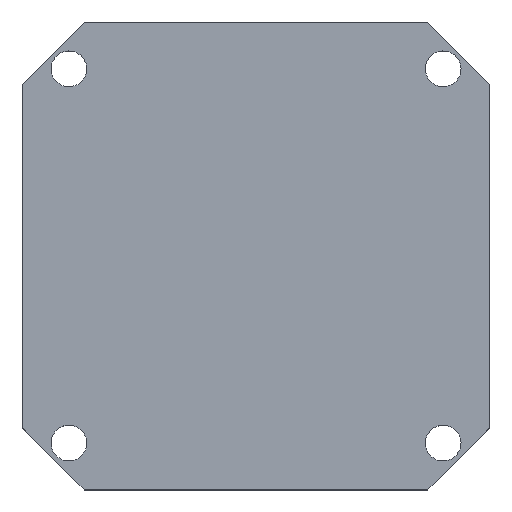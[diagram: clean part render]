
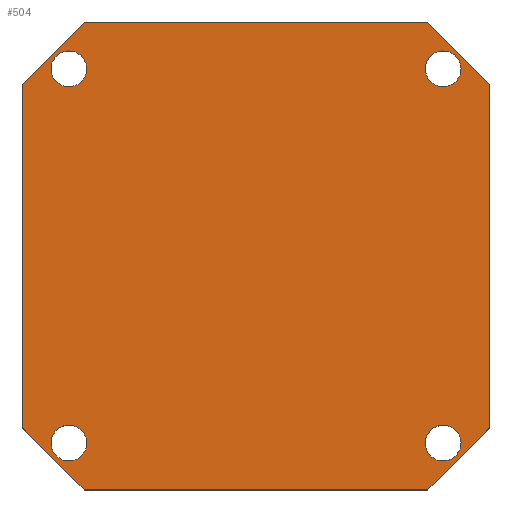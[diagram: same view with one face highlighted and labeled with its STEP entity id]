
A CAD part, top view. The second image highlights one B-rep face of the part: STEP entity #504.
In plain terms, the highlighted planar face has unit normal (0, 0, 1).
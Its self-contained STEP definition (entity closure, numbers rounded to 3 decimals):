
#63=CARTESIAN_POINT('Vertex',(-22.67,21.874,5.)) ;
#77=CARTESIAN_POINT('Vertex',(-19.16,19.956,5.)) ;
#80=CARTESIAN_POINT('Axis2P3D Location',(-20.915,20.915,5.)) ;
#97=CARTESIAN_POINT('Axis2P3D Location',(-20.915,20.915,5.)) ;
#120=CARTESIAN_POINT('Vertex',(-19.211,26.155,5.)) ;
#134=CARTESIAN_POINT('Vertex',(-26.15,19.216,5.)) ;
#137=CARTESIAN_POINT('Line Origine',(-22.681,22.685,5.)) ;
#165=CARTESIAN_POINT('Vertex',(-26.15,-19.226,5.)) ;
#168=CARTESIAN_POINT('Line Origine',(-26.15,-0.005,5.)) ;
#196=CARTESIAN_POINT('Vertex',(-19.221,-26.155,5.)) ;
#199=CARTESIAN_POINT('Line Origine',(-22.686,-22.69,5.)) ;
#227=CARTESIAN_POINT('Vertex',(19.221,-26.155,5.)) ;
#230=CARTESIAN_POINT('Line Origine',(0.,-26.155,5.)) ;
#258=CARTESIAN_POINT('Vertex',(26.15,-19.226,5.)) ;
#261=CARTESIAN_POINT('Line Origine',(22.686,-22.69,5.)) ;
#289=CARTESIAN_POINT('Vertex',(26.15,19.216,5.)) ;
#292=CARTESIAN_POINT('Line Origine',(26.15,-0.005,5.)) ;
#320=CARTESIAN_POINT('Vertex',(19.211,26.155,5.)) ;
#323=CARTESIAN_POINT('Line Origine',(22.681,22.685,5.)) ;
#345=CARTESIAN_POINT('Line Origine',(0.,26.155,5.)) ;
#431=CARTESIAN_POINT('Axis2P3D Location',(0.,0.,5.)) ;
#450=CARTESIAN_POINT('Axis2P3D Location',(-20.915,-20.921,5.)) ;
#454=CARTESIAN_POINT('Vertex',(-19.16,-21.88,5.)) ;
#456=CARTESIAN_POINT('Vertex',(-22.67,-19.962,5.)) ;
#459=CARTESIAN_POINT('Axis2P3D Location',(-20.915,-20.921,5.)) ;
#468=CARTESIAN_POINT('Axis2P3D Location',(20.921,20.915,5.)) ;
#472=CARTESIAN_POINT('Vertex',(22.676,19.956,5.)) ;
#474=CARTESIAN_POINT('Vertex',(19.166,21.874,5.)) ;
#477=CARTESIAN_POINT('Axis2P3D Location',(20.921,20.915,5.)) ;
#486=CARTESIAN_POINT('Axis2P3D Location',(20.921,-20.921,5.)) ;
#490=CARTESIAN_POINT('Vertex',(22.676,-21.88,5.)) ;
#492=CARTESIAN_POINT('Vertex',(19.166,-19.962,5.)) ;
#495=CARTESIAN_POINT('Axis2P3D Location',(20.921,-20.921,5.)) ;
#81=DIRECTION('Axis2P3D Direction',(0.,-0.,-1.)) ;
#98=DIRECTION('Axis2P3D Direction',(0.,-0.,-1.)) ;
#138=DIRECTION('Vector Direction',(0.707,0.707,0.)) ;
#169=DIRECTION('Vector Direction',(0.,1.,0.)) ;
#200=DIRECTION('Vector Direction',(-0.707,0.707,0.)) ;
#231=DIRECTION('Vector Direction',(-1.,0.,0.)) ;
#262=DIRECTION('Vector Direction',(-0.707,-0.707,0.)) ;
#293=DIRECTION('Vector Direction',(0.,-1.,0.)) ;
#324=DIRECTION('Vector Direction',(0.707,-0.707,0.)) ;
#346=DIRECTION('Vector Direction',(1.,0.,0.)) ;
#432=DIRECTION('Axis2P3D Direction',(0.,0.,1.)) ;
#433=DIRECTION('Axis2P3D XDirection',(1.,0.,0.)) ;
#451=DIRECTION('Axis2P3D Direction',(0.,0.,1.)) ;
#460=DIRECTION('Axis2P3D Direction',(0.,0.,1.)) ;
#469=DIRECTION('Axis2P3D Direction',(0.,0.,1.)) ;
#478=DIRECTION('Axis2P3D Direction',(0.,0.,1.)) ;
#487=DIRECTION('Axis2P3D Direction',(0.,0.,1.)) ;
#496=DIRECTION('Axis2P3D Direction',(0.,0.,1.)) ;
#82=AXIS2_PLACEMENT_3D('Circle Axis2P3D',#80,#81,$) ;
#99=AXIS2_PLACEMENT_3D('Circle Axis2P3D',#97,#98,$) ;
#434=AXIS2_PLACEMENT_3D('Plane Axis2P3D',#431,#432,#433) ;
#452=AXIS2_PLACEMENT_3D('Circle Axis2P3D',#450,#451,$) ;
#461=AXIS2_PLACEMENT_3D('Circle Axis2P3D',#459,#460,$) ;
#470=AXIS2_PLACEMENT_3D('Circle Axis2P3D',#468,#469,$) ;
#479=AXIS2_PLACEMENT_3D('Circle Axis2P3D',#477,#478,$) ;
#488=AXIS2_PLACEMENT_3D('Circle Axis2P3D',#486,#487,$) ;
#497=AXIS2_PLACEMENT_3D('Circle Axis2P3D',#495,#496,$) ;
#437=ORIENTED_EDGE('',*,*,#141,.T.) ;
#438=ORIENTED_EDGE('',*,*,#172,.T.) ;
#439=ORIENTED_EDGE('',*,*,#203,.T.) ;
#440=ORIENTED_EDGE('',*,*,#234,.T.) ;
#441=ORIENTED_EDGE('',*,*,#265,.T.) ;
#442=ORIENTED_EDGE('',*,*,#296,.T.) ;
#443=ORIENTED_EDGE('',*,*,#327,.T.) ;
#444=ORIENTED_EDGE('',*,*,#349,.T.) ;
#447=ORIENTED_EDGE('',*,*,#101,.F.) ;
#448=ORIENTED_EDGE('',*,*,#84,.F.) ;
#465=ORIENTED_EDGE('',*,*,#458,.F.) ;
#466=ORIENTED_EDGE('',*,*,#463,.F.) ;
#483=ORIENTED_EDGE('',*,*,#476,.F.) ;
#484=ORIENTED_EDGE('',*,*,#481,.F.) ;
#501=ORIENTED_EDGE('',*,*,#494,.F.) ;
#502=ORIENTED_EDGE('',*,*,#499,.F.) ;
#449=FACE_BOUND('',#446,.T.) ;
#467=FACE_BOUND('',#464,.T.) ;
#485=FACE_BOUND('',#482,.T.) ;
#503=FACE_BOUND('',#500,.T.) ;
#139=VECTOR('Line Direction',#138,1.) ;
#170=VECTOR('Line Direction',#169,1.) ;
#201=VECTOR('Line Direction',#200,1.) ;
#232=VECTOR('Line Direction',#231,1.) ;
#263=VECTOR('Line Direction',#262,1.) ;
#294=VECTOR('Line Direction',#293,1.) ;
#325=VECTOR('Line Direction',#324,1.) ;
#347=VECTOR('Line Direction',#346,1.) ;
#504=ADVANCED_FACE('Corps principal',(#445,#449,#467,#485,#503),#435,.T.) ;
#83=CIRCLE('generated circle',#82,2.) ;
#100=CIRCLE('generated circle',#99,2.) ;
#453=CIRCLE('generated circle',#452,2.) ;
#462=CIRCLE('generated circle',#461,2.) ;
#471=CIRCLE('generated circle',#470,2.) ;
#480=CIRCLE('generated circle',#479,2.) ;
#489=CIRCLE('generated circle',#488,2.) ;
#498=CIRCLE('generated circle',#497,2.) ;
#84=EDGE_CURVE('',#78,#64,#83,.F.) ;
#101=EDGE_CURVE('',#64,#78,#100,.F.) ;
#141=EDGE_CURVE('',#121,#135,#140,.F.) ;
#172=EDGE_CURVE('',#135,#166,#171,.F.) ;
#203=EDGE_CURVE('',#166,#197,#202,.F.) ;
#234=EDGE_CURVE('',#197,#228,#233,.F.) ;
#265=EDGE_CURVE('',#228,#259,#264,.F.) ;
#296=EDGE_CURVE('',#259,#290,#295,.F.) ;
#327=EDGE_CURVE('',#290,#321,#326,.F.) ;
#349=EDGE_CURVE('',#321,#121,#348,.F.) ;
#458=EDGE_CURVE('',#455,#457,#453,.T.) ;
#463=EDGE_CURVE('',#457,#455,#462,.T.) ;
#476=EDGE_CURVE('',#473,#475,#471,.T.) ;
#481=EDGE_CURVE('',#475,#473,#480,.T.) ;
#494=EDGE_CURVE('',#491,#493,#489,.T.) ;
#499=EDGE_CURVE('',#493,#491,#498,.T.) ;
#436=EDGE_LOOP('',(#437,#438,#439,#440,#441,#442,#443,#444)) ;
#446=EDGE_LOOP('',(#447,#448)) ;
#464=EDGE_LOOP('',(#465,#466)) ;
#482=EDGE_LOOP('',(#483,#484)) ;
#500=EDGE_LOOP('',(#501,#502)) ;
#445=FACE_OUTER_BOUND('',#436,.T.) ;
#140=LINE('Line',#137,#139) ;
#171=LINE('Line',#168,#170) ;
#202=LINE('Line',#199,#201) ;
#233=LINE('Line',#230,#232) ;
#264=LINE('Line',#261,#263) ;
#295=LINE('Line',#292,#294) ;
#326=LINE('Line',#323,#325) ;
#348=LINE('Line',#345,#347) ;
#435=PLANE('Plane',#434) ;
#64=VERTEX_POINT('',#63) ;
#78=VERTEX_POINT('',#77) ;
#121=VERTEX_POINT('',#120) ;
#135=VERTEX_POINT('',#134) ;
#166=VERTEX_POINT('',#165) ;
#197=VERTEX_POINT('',#196) ;
#228=VERTEX_POINT('',#227) ;
#259=VERTEX_POINT('',#258) ;
#290=VERTEX_POINT('',#289) ;
#321=VERTEX_POINT('',#320) ;
#455=VERTEX_POINT('',#454) ;
#457=VERTEX_POINT('',#456) ;
#473=VERTEX_POINT('',#472) ;
#475=VERTEX_POINT('',#474) ;
#491=VERTEX_POINT('',#490) ;
#493=VERTEX_POINT('',#492) ;
